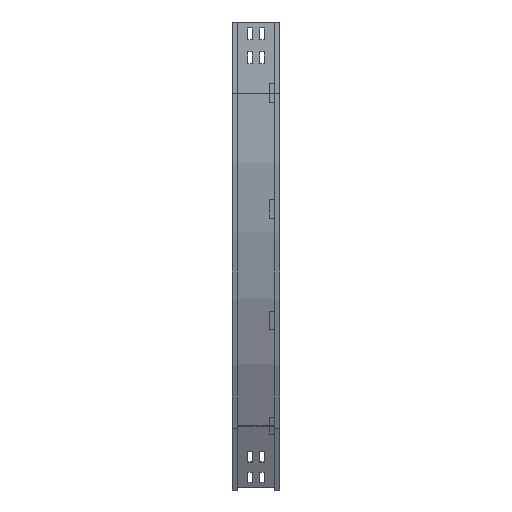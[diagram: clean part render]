
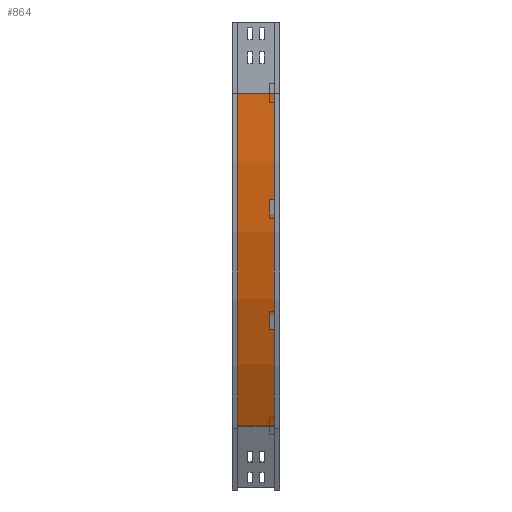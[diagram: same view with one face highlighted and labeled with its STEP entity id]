
A CAD part, left-side view. The second image highlights one B-rep face of the part: STEP entity #864.
In plain terms, the highlighted cylindrical face has radius 1400 mm (diameter 2800 mm), a partial arc.
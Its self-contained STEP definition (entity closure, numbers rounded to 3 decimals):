
#118 = EDGE_LOOP ( 'NONE', ( #2754, #558, #1631, #3550 ) ) ;
#270 = CARTESIAN_POINT ( 'NONE',  ( 9., 12., -150. ) ) ;
#345 = DIRECTION ( 'NONE',  ( 0., -1., 0. ) ) ;
#416 = CARTESIAN_POINT ( 'NONE',  ( 9., 88., -150. ) ) ;
#461 = VERTEX_POINT ( 'NONE', #416 ) ;
#488 = CARTESIAN_POINT ( 'NONE',  ( 9., 12., -150. ) ) ;
#515 = LINE ( 'NONE', #488, #3818 ) ;
#541 = DIRECTION ( 'NONE',  ( 0., -1., 0. ) ) ;
#558 = ORIENTED_EDGE ( 'NONE', *, *, #1172, .F. ) ;
#864 = ADVANCED_FACE ( 'NONE', ( #3093 ), #3757, .T. ) ;
#878 = VERTEX_POINT ( 'NONE', #270 ) ;
#893 = AXIS2_PLACEMENT_3D ( 'NONE', #3351, #345, #2325 ) ;
#949 = CARTESIAN_POINT ( 'NONE',  ( 1409., 0., -150. ) ) ;
#1114 = CIRCLE ( 'NONE', #893, 1400. ) ;
#1170 = LINE ( 'NONE', #2950, #2776 ) ;
#1172 = EDGE_CURVE ( 'NONE', #461, #878, #515, .T. ) ;
#1522 = VERTEX_POINT ( 'NONE', #1766 ) ;
#1566 = EDGE_CURVE ( 'NONE', #878, #1522, #2830, .T. ) ;
#1610 = DIRECTION ( 'NONE',  ( 0., -1., 0. ) ) ;
#1631 = ORIENTED_EDGE ( 'NONE', *, *, #3358, .T. ) ;
#1766 = CARTESIAN_POINT ( 'NONE',  ( 196.564, 12., -850. ) ) ;
#1892 = CARTESIAN_POINT ( 'NONE',  ( 1409., 12., -150. ) ) ;
#2317 = DIRECTION ( 'NONE',  ( 0., 0., -1. ) ) ;
#2319 = AXIS2_PLACEMENT_3D ( 'NONE', #1892, #3005, #4065 ) ;
#2325 = DIRECTION ( 'NONE',  ( -1., 0., 0. ) ) ;
#2429 = EDGE_CURVE ( 'NONE', #4377, #1522, #1170, .T. ) ;
#2754 = ORIENTED_EDGE ( 'NONE', *, *, #1566, .F. ) ;
#2776 = VECTOR ( 'NONE', #1610, 1000. ) ;
#2830 = CIRCLE ( 'NONE', #2319, 1400. ) ;
#2950 = CARTESIAN_POINT ( 'NONE',  ( 196.564, 12., -850. ) ) ;
#3005 = DIRECTION ( 'NONE',  ( 0., -1., 0. ) ) ;
#3047 = AXIS2_PLACEMENT_3D ( 'NONE', #949, #4080, #2317 ) ;
#3093 = FACE_OUTER_BOUND ( 'NONE', #118, .T. ) ;
#3237 = CARTESIAN_POINT ( 'NONE',  ( 196.564, 88., -850. ) ) ;
#3351 = CARTESIAN_POINT ( 'NONE',  ( 1409., 88., -150. ) ) ;
#3358 = EDGE_CURVE ( 'NONE', #461, #4377, #1114, .T. ) ;
#3550 = ORIENTED_EDGE ( 'NONE', *, *, #2429, .T. ) ;
#3757 = CYLINDRICAL_SURFACE ( 'NONE', #3047, 1400. ) ;
#3818 = VECTOR ( 'NONE', #541, 1000. ) ;
#4065 = DIRECTION ( 'NONE',  ( -1., 0., 0. ) ) ;
#4080 = DIRECTION ( 'NONE',  ( 0., -1., 0. ) ) ;
#4377 = VERTEX_POINT ( 'NONE', #3237 ) ;
